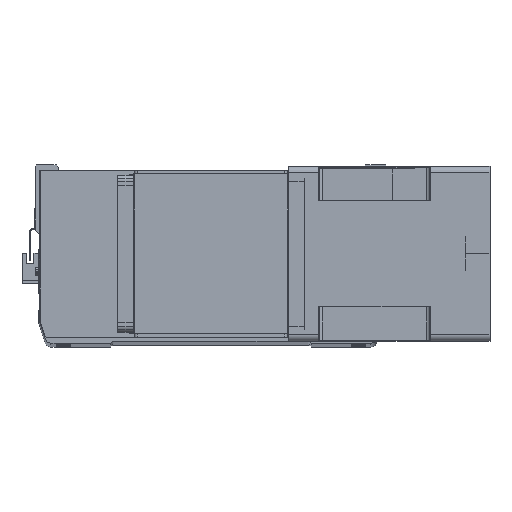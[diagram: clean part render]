
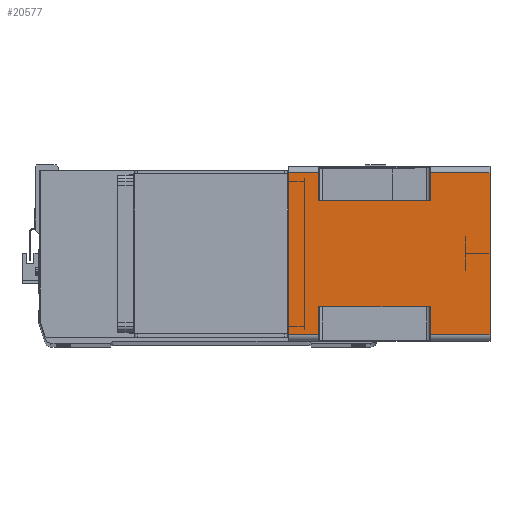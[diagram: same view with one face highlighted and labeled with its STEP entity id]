
A CAD part, top view. The second image highlights one B-rep face of the part: STEP entity #20577.
In plain terms, the highlighted planar face has unit normal (0, 0, 1) as drawn and (1, 0, 0) by its records, which use the part's own axes.
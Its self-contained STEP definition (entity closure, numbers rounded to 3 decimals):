
#308 = VECTOR ( 'NONE', #17766, 1000. ) ;
#370 = LINE ( 'NONE', #15371, #8501 ) ;
#529 = VERTEX_POINT ( 'NONE', #5594 ) ;
#756 = CARTESIAN_POINT ( 'NONE',  ( 71., 43., -164. ) ) ;
#767 = DIRECTION ( 'NONE',  ( 0., 1., 0. ) ) ;
#945 = LINE ( 'NONE', #10731, #20199 ) ;
#1009 = ORIENTED_EDGE ( 'NONE', *, *, #2165, .T. ) ;
#1522 = CARTESIAN_POINT ( 'NONE',  ( 71., -66., -164. ) ) ;
#1556 = VECTOR ( 'NONE', #767, 1000. ) ;
#2165 = EDGE_CURVE ( 'NONE', #17654, #11841, #11180, .T. ) ;
#2762 = LINE ( 'NONE', #24026, #3958 ) ;
#2935 = LINE ( 'NONE', #7357, #28497 ) ;
#3319 = PLANE ( 'NONE',  #11355 ) ;
#3779 = CARTESIAN_POINT ( 'NONE',  ( 71., 66., -164. ) ) ;
#3958 = VECTOR ( 'NONE', #9028, 1000. ) ;
#5047 = LINE ( 'NONE', #17889, #1556 ) ;
#5336 = ORIENTED_EDGE ( 'NONE', *, *, #15474, .T. ) ;
#5503 = LINE ( 'NONE', #19417, #15894 ) ;
#5520 = ORIENTED_EDGE ( 'NONE', *, *, #17005, .F. ) ;
#5594 = CARTESIAN_POINT ( 'NONE',  ( 71., 66., -24.5 ) ) ;
#5881 = CARTESIAN_POINT ( 'NONE',  ( 71., -66., -115.5 ) ) ;
#5912 = DIRECTION ( 'NONE',  ( 1., 0., 0. ) ) ;
#6303 = EDGE_CURVE ( 'NONE', #17675, #27828, #945, .T. ) ;
#6652 = ORIENTED_EDGE ( 'NONE', *, *, #25571, .T. ) ;
#7318 = ORIENTED_EDGE ( 'NONE', *, *, #6303, .F. ) ;
#7357 = CARTESIAN_POINT ( 'NONE',  ( 71., -66., -164. ) ) ;
#7700 = VECTOR ( 'NONE', #27901, 1000. ) ;
#8501 = VECTOR ( 'NONE', #23203, 1000. ) ;
#8748 = VECTOR ( 'NONE', #25883, 1000. ) ;
#9028 = DIRECTION ( 'NONE',  ( 0., -1., 0. ) ) ;
#9434 = VERTEX_POINT ( 'NONE', #22450 ) ;
#9462 = EDGE_CURVE ( 'NONE', #10460, #17675, #2935, .T. ) ;
#9511 = CARTESIAN_POINT ( 'NONE',  ( 71., 43., -24.5 ) ) ;
#10143 = CARTESIAN_POINT ( 'NONE',  ( 71., -43., -24.5 ) ) ;
#10460 = VERTEX_POINT ( 'NONE', #29972 ) ;
#10731 = CARTESIAN_POINT ( 'NONE',  ( 71., -66., 0. ) ) ;
#11180 = LINE ( 'NONE', #17784, #7700 ) ;
#11355 = AXIS2_PLACEMENT_3D ( 'NONE', #18300, #5912, #28300 ) ;
#11841 = VERTEX_POINT ( 'NONE', #3779 ) ;
#11878 = DIRECTION ( 'NONE',  ( 0., 0., 1. ) ) ;
#12377 = EDGE_CURVE ( 'NONE', #20296, #529, #22636, .T. ) ;
#12987 = DIRECTION ( 'NONE',  ( 0., -1., 0. ) ) ;
#13164 = DIRECTION ( 'NONE',  ( 0., 1., 0. ) ) ;
#14685 = DIRECTION ( 'NONE',  ( 0., 0., 1. ) ) ;
#15055 = CARTESIAN_POINT ( 'NONE',  ( 71., -43., -164. ) ) ;
#15205 = ORIENTED_EDGE ( 'NONE', *, *, #21477, .F. ) ;
#15371 = CARTESIAN_POINT ( 'NONE',  ( 71., 66., -164. ) ) ;
#15474 = EDGE_CURVE ( 'NONE', #29813, #21428, #2762, .T. ) ;
#15894 = VECTOR ( 'NONE', #14685, 1000. ) ;
#16110 = ORIENTED_EDGE ( 'NONE', *, *, #19092, .F. ) ;
#16143 = CARTESIAN_POINT ( 'NONE',  ( 71., 66., 0. ) ) ;
#17005 = EDGE_CURVE ( 'NONE', #20296, #21428, #24264, .T. ) ;
#17654 = VERTEX_POINT ( 'NONE', #1522 ) ;
#17675 = VERTEX_POINT ( 'NONE', #26387 ) ;
#17766 = DIRECTION ( 'NONE',  ( 0., 0., -1. ) ) ;
#17784 = CARTESIAN_POINT ( 'NONE',  ( 71., -66., -164. ) ) ;
#17889 = CARTESIAN_POINT ( 'NONE',  ( 71., -43., -24.5 ) ) ;
#18202 = VERTEX_POINT ( 'NONE', #10143 ) ;
#18211 = ORIENTED_EDGE ( 'NONE', *, *, #29196, .T. ) ;
#18300 = CARTESIAN_POINT ( 'NONE',  ( 71., -66., -164. ) ) ;
#18403 = EDGE_CURVE ( 'NONE', #9434, #18881, #22151, .T. ) ;
#18881 = VERTEX_POINT ( 'NONE', #31266 ) ;
#18898 = LINE ( 'NONE', #15055, #27845 ) ;
#19092 = EDGE_CURVE ( 'NONE', #17654, #18881, #20703, .T. ) ;
#19417 = CARTESIAN_POINT ( 'NONE',  ( 71., 66., -164. ) ) ;
#20199 = VECTOR ( 'NONE', #13164, 1000. ) ;
#20296 = VERTEX_POINT ( 'NONE', #9511 ) ;
#20577 = ADVANCED_FACE ( 'NONE', ( #27947 ), #3319, .T. ) ;
#20703 = LINE ( 'NONE', #29431, #28106 ) ;
#21428 = VERTEX_POINT ( 'NONE', #29626 ) ;
#21477 = EDGE_CURVE ( 'NONE', #9434, #18202, #18898, .T. ) ;
#22151 = LINE ( 'NONE', #5881, #31117 ) ;
#22450 = CARTESIAN_POINT ( 'NONE',  ( 71., -43., -115.5 ) ) ;
#22636 = LINE ( 'NONE', #23602, #8748 ) ;
#23203 = DIRECTION ( 'NONE',  ( 0., 0., 1. ) ) ;
#23307 = ORIENTED_EDGE ( 'NONE', *, *, #9462, .F. ) ;
#23602 = CARTESIAN_POINT ( 'NONE',  ( 71., -66., -24.5 ) ) ;
#24026 = CARTESIAN_POINT ( 'NONE',  ( 71., 43., -115.5 ) ) ;
#24264 = LINE ( 'NONE', #756, #308 ) ;
#24941 = DIRECTION ( 'NONE',  ( 0., 0., 1. ) ) ;
#25571 = EDGE_CURVE ( 'NONE', #10460, #18202, #5047, .T. ) ;
#25744 = ORIENTED_EDGE ( 'NONE', *, *, #12377, .T. ) ;
#25883 = DIRECTION ( 'NONE',  ( 0., 1., 0. ) ) ;
#26387 = CARTESIAN_POINT ( 'NONE',  ( 71., -66., 0. ) ) ;
#27214 = DIRECTION ( 'NONE',  ( 0., 0., 1. ) ) ;
#27828 = VERTEX_POINT ( 'NONE', #16143 ) ;
#27845 = VECTOR ( 'NONE', #27214, 1000. ) ;
#27901 = DIRECTION ( 'NONE',  ( 0., 1., 0. ) ) ;
#27947 = FACE_OUTER_BOUND ( 'NONE', #29182, .T. ) ;
#28089 = ORIENTED_EDGE ( 'NONE', *, *, #30476, .T. ) ;
#28106 = VECTOR ( 'NONE', #11878, 1000. ) ;
#28300 = DIRECTION ( 'NONE',  ( 0., 1., 0. ) ) ;
#28387 = CARTESIAN_POINT ( 'NONE',  ( 71., 66., -115.5 ) ) ;
#28461 = ORIENTED_EDGE ( 'NONE', *, *, #18403, .T. ) ;
#28497 = VECTOR ( 'NONE', #24941, 1000. ) ;
#29182 = EDGE_LOOP ( 'NONE', ( #15205, #28461, #16110, #1009, #18211, #5336, #5520, #25744, #28089, #7318, #23307, #6652 ) ) ;
#29196 = EDGE_CURVE ( 'NONE', #11841, #29813, #370, .T. ) ;
#29431 = CARTESIAN_POINT ( 'NONE',  ( 71., -66., -164. ) ) ;
#29626 = CARTESIAN_POINT ( 'NONE',  ( 71., 43., -115.5 ) ) ;
#29813 = VERTEX_POINT ( 'NONE', #28387 ) ;
#29972 = CARTESIAN_POINT ( 'NONE',  ( 71., -66., -24.5 ) ) ;
#30476 = EDGE_CURVE ( 'NONE', #529, #27828, #5503, .T. ) ;
#31117 = VECTOR ( 'NONE', #12987, 1000. ) ;
#31266 = CARTESIAN_POINT ( 'NONE',  ( 71., -66., -115.5 ) ) ;
